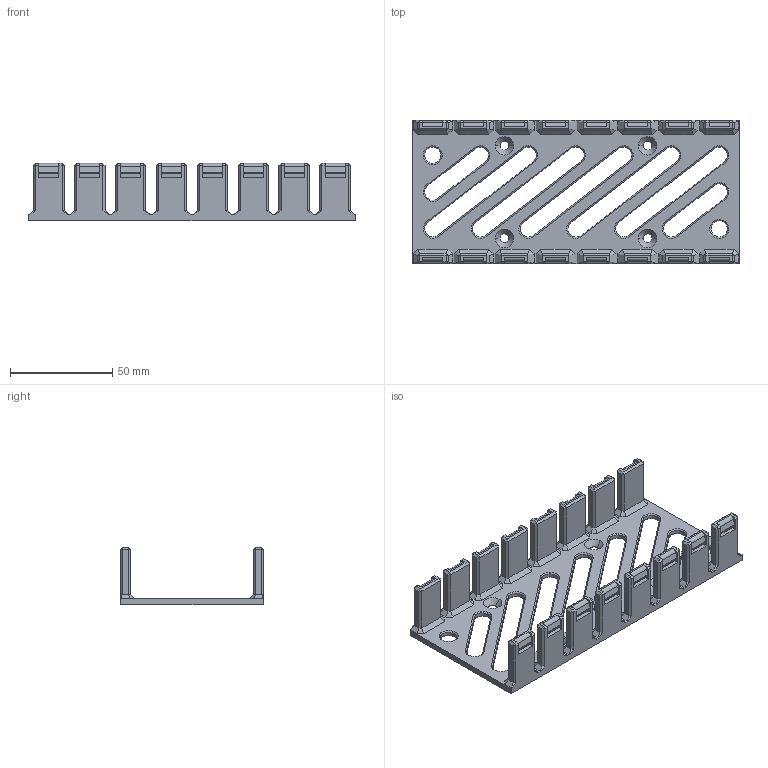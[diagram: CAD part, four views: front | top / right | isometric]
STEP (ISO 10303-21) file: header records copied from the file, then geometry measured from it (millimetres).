
FILE_DESCRIPTION (( 'STEP AP203' ), '1' );
FILE_NAME ('tray__mini--screwMount--25mm.STEP', '2024-02-16T04:18:51', ( '' ), ( '' ), 'SwSTEP 2.0', 'SolidWorks 2020', '' );
FILE_SCHEMA (( 'CONFIG_CONTROL_DESIGN' ));
Length unit declared in the file: millimetre
Products named in the file (1): tray__mini--screwMount--25mm
Bounding box: 160 x 70 x 28 mm (x, y, z)
Volume: 51371.6 mm3; surface area: 34364.1 mm2
Topology: 1 solids, 1 shells, 655 faces, 1592 edges, 939 vertices
Faces by surface type: plane 548, cone 58, cylinder 49
Entity records: 18562 total; most frequent: CARTESIAN_POINT 3187, ORIENTED_EDGE 3184, DIRECTION 3067, EDGE_CURVE 1592, LINE 1429, VECTOR 1429, VERTEX_POINT 939, AXIS2_PLACEMENT_3D 819
